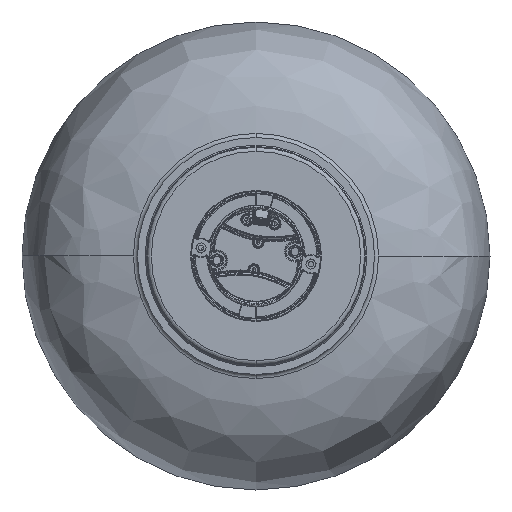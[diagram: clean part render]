
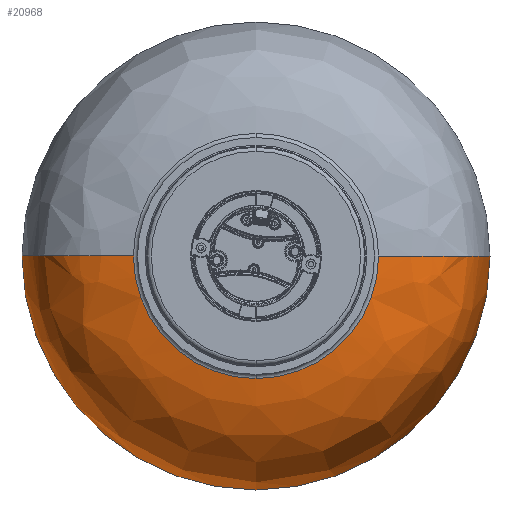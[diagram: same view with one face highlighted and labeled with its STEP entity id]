
A CAD part, front view. The second image highlights one B-rep face of the part: STEP entity #20968.
In plain terms, the highlighted free-form (B-spline) face has degree [3, 3] with [7, 4] control points.
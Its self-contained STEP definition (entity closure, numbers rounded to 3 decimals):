
#2613 = VERTEX_POINT ( 'NONE', #21516 ) ;
#4855 = CARTESIAN_POINT ( 'NONE',  ( -85.562, -213.029, 0. ) ) ;
#5210 = CARTESIAN_POINT ( 'NONE',  ( 152., -104.694, 0. ) ) ;
#5527 = CIRCLE ( 'NONE', #6768, 79.594 ) ;
#6339 = DIRECTION ( 'NONE',  ( 0., -1., 0. ) ) ;
#6768 = AXIS2_PLACEMENT_3D ( 'NONE', #34415, #57318, #17936 ) ;
#7639 = AXIS2_PLACEMENT_3D ( 'NONE', #57385, #6339, #12352 ) ;
#8888 = CARTESIAN_POINT ( 'NONE',  ( 79.594, -213.845, 0. ) ) ;
#9716 = CARTESIAN_POINT ( 'NONE',  ( 152.03, -116.775, -304.06 ) ) ;
#9989 = ORIENTED_EDGE ( 'NONE', *, *, #14375, .T. ) ;
#10096 = CARTESIAN_POINT ( 'NONE',  ( 85.562, -213.029, -171.125 ) ) ;
#10459 = CARTESIAN_POINT ( 'NONE',  ( -151.189, -155.552, 0. ) ) ;
#11209 = CARTESIAN_POINT ( 'NONE',  ( 151.189, -155.552, -302.379 ) ) ;
#12352 = DIRECTION ( 'NONE',  ( 0., 0., -1. ) ) ;
#13218 = CARTESIAN_POINT ( 'NONE',  ( -151.189, -155.552, 0. ) ) ;
#13387 = VERTEX_POINT ( 'NONE', #72590 ) ;
#14239 =( BOUNDED_SURFACE ( )  B_SPLINE_SURFACE ( 3, 3, ( 
 ( #16484, #21357, #56614, #16116 ),
 ( #4855, #22090, #10096, #43841 ),
 ( #21017, #50249, #73226, #32609 ),
 ( #61202, #73586, #44950, #44567 ),
 ( #10459, #68361, #11209, #38981 ),
 ( #21735, #55504, #9716, #49856 ),
 ( #67597, #61926, #33361, #5210 ) ),
 .UNSPECIFIED., .F., .F., .F. ) 
 B_SPLINE_SURFACE_WITH_KNOTS ( ( 4, 1, 1, 1, 4 ),
 ( 4, 4 ),
 ( 0.124, 0.177, 0.307, 0.407, 0.579 ),
 ( 0., 1. ),
 .UNSPECIFIED. ) 
 GEOMETRIC_REPRESENTATION_ITEM ( )  RATIONAL_B_SPLINE_SURFACE ( (
 ( 1., 0.333, 0.333, 1.),
 ( 1., 0.333, 0.333, 1.),
 ( 1., 0.333, 0.333, 1.),
 ( 1., 0.333, 0.333, 1.),
 ( 1., 0.333, 0.333, 1.),
 ( 1., 0.333, 0.333, 1.),
 ( 1., 0.333, 0.333, 1.) ) ) 
 REPRESENTATION_ITEM ( '' )  SURFACE ( )  );
#14375 = EDGE_CURVE ( 'NONE', #56492, #51142, #62820, .T. ) ;
#14890 = CARTESIAN_POINT ( 'NONE',  ( 135.411, -193.319, 0. ) ) ;
#16116 = CARTESIAN_POINT ( 'NONE',  ( 79.594, -213.845, 0. ) ) ;
#16484 = CARTESIAN_POINT ( 'NONE',  ( -79.594, -213.845, 0. ) ) ;
#17936 = DIRECTION ( 'NONE',  ( 0., 0., -1. ) ) ;
#20968 = ADVANCED_FACE ( 'NONE', ( #30795 ), #14239, .T. ) ;
#21017 = CARTESIAN_POINT ( 'NONE',  ( -106.744, -208.96, 0. ) ) ;
#21357 = CARTESIAN_POINT ( 'NONE',  ( -79.594, -213.845, -159.187 ) ) ;
#21516 = CARTESIAN_POINT ( 'NONE',  ( -79.594, -213.845, 0. ) ) ;
#21735 = CARTESIAN_POINT ( 'NONE',  ( -152.03, -116.775, 0. ) ) ;
#22090 = CARTESIAN_POINT ( 'NONE',  ( -85.562, -213.029, -171.125 ) ) ;
#24467 = CARTESIAN_POINT ( 'NONE',  ( -79.594, -213.845, 0. ) ) ;
#25218 = EDGE_CURVE ( 'NONE', #13387, #2613, #5527, .T. ) ;
#27175 = ORIENTED_EDGE ( 'NONE', *, *, #62263, .T. ) ;
#30795 = FACE_OUTER_BOUND ( 'NONE', #69858, .T. ) ;
#31413 = CARTESIAN_POINT ( 'NONE',  ( 106.744, -208.96, 0. ) ) ;
#32479 = B_SPLINE_CURVE_WITH_KNOTS ( 'NONE', 3,
 ( #8888, #53985, #31413, #14890, #70921, #59986, #37379 ),
 .UNSPECIFIED., .F., .F.,
 ( 4, 1, 1, 1, 4 ),
 ( 0.124, 0.177, 0.307, 0.407, 0.579 ),
 .UNSPECIFIED. ) ;
#32609 = CARTESIAN_POINT ( 'NONE',  ( 106.744, -208.96, 0. ) ) ;
#32724 = EDGE_CURVE ( 'NONE', #59236, #13387, #73664, .T. ) ;
#32861 = AXIS2_PLACEMENT_3D ( 'NONE', #57062, #58185, #51439 ) ;
#33361 = CARTESIAN_POINT ( 'NONE',  ( 152., -104.694, -304. ) ) ;
#34415 = CARTESIAN_POINT ( 'NONE',  ( 0., -213.845, 0. ) ) ;
#36876 = ORIENTED_EDGE ( 'NONE', *, *, #32724, .T. ) ;
#37379 = CARTESIAN_POINT ( 'NONE',  ( 152., -104.694, 0. ) ) ;
#38981 = CARTESIAN_POINT ( 'NONE',  ( 151.189, -155.552, 0. ) ) ;
#43841 = CARTESIAN_POINT ( 'NONE',  ( 85.562, -213.029, 0. ) ) ;
#43876 = CARTESIAN_POINT ( 'NONE',  ( -152., -104.694, 0. ) ) ;
#44567 = CARTESIAN_POINT ( 'NONE',  ( 135.411, -193.319, 0. ) ) ;
#44950 = CARTESIAN_POINT ( 'NONE',  ( 135.411, -193.319, -270.821 ) ) ;
#47327 = CARTESIAN_POINT ( 'NONE',  ( -85.562, -213.029, 0. ) ) ;
#49856 = CARTESIAN_POINT ( 'NONE',  ( 152.03, -116.775, 0. ) ) ;
#50180 = CARTESIAN_POINT ( 'NONE',  ( 79.594, -213.845, 0. ) ) ;
#50249 = CARTESIAN_POINT ( 'NONE',  ( -106.744, -208.96, -213.489 ) ) ;
#51142 = VERTEX_POINT ( 'NONE', #51152 ) ;
#51152 = CARTESIAN_POINT ( 'NONE',  ( 152., -104.694, 0. ) ) ;
#51439 = DIRECTION ( 'NONE',  ( 0., 0., -1. ) ) ;
#53985 = CARTESIAN_POINT ( 'NONE',  ( 85.562, -213.029, 0. ) ) ;
#54046 = EDGE_CURVE ( 'NONE', #59236, #51142, #32479, .T. ) ;
#54485 = CARTESIAN_POINT ( 'NONE',  ( -152.03, -116.775, 0. ) ) ;
#55504 = CARTESIAN_POINT ( 'NONE',  ( -152.03, -116.775, -304.06 ) ) ;
#56492 = VERTEX_POINT ( 'NONE', #71256 ) ;
#56614 = CARTESIAN_POINT ( 'NONE',  ( 79.594, -213.845, -159.187 ) ) ;
#57062 = CARTESIAN_POINT ( 'NONE',  ( 0., -213.845, 0. ) ) ;
#57318 = DIRECTION ( 'NONE',  ( 0., 1., 0. ) ) ;
#57385 = CARTESIAN_POINT ( 'NONE',  ( 0., -104.694, 0. ) ) ;
#58185 = DIRECTION ( 'NONE',  ( 0., 1., 0. ) ) ;
#59236 = VERTEX_POINT ( 'NONE', #50180 ) ;
#59986 = CARTESIAN_POINT ( 'NONE',  ( 152.03, -116.775, 0. ) ) ;
#61202 = CARTESIAN_POINT ( 'NONE',  ( -135.411, -193.319, 0. ) ) ;
#61926 = CARTESIAN_POINT ( 'NONE',  ( -152., -104.694, -304. ) ) ;
#62263 = EDGE_CURVE ( 'NONE', #2613, #56492, #71143, .T. ) ;
#62820 = CIRCLE ( 'NONE', #7639, 152. ) ;
#64686 = CARTESIAN_POINT ( 'NONE',  ( -135.411, -193.319, 0. ) ) ;
#66775 = ORIENTED_EDGE ( 'NONE', *, *, #25218, .T. ) ;
#67597 = CARTESIAN_POINT ( 'NONE',  ( -152., -104.694, 0. ) ) ;
#68361 = CARTESIAN_POINT ( 'NONE',  ( -151.189, -155.552, -302.379 ) ) ;
#69858 = EDGE_LOOP ( 'NONE', ( #66775, #27175, #9989, #72044, #36876 ) ) ;
#70346 = CARTESIAN_POINT ( 'NONE',  ( -106.744, -208.96, 0. ) ) ;
#70921 = CARTESIAN_POINT ( 'NONE',  ( 151.189, -155.552, 0. ) ) ;
#71143 = B_SPLINE_CURVE_WITH_KNOTS ( 'NONE', 3,
 ( #24467, #47327, #70346, #64686, #13218, #54485, #43876 ),
 .UNSPECIFIED., .F., .F.,
 ( 4, 1, 1, 1, 4 ),
 ( 0.124, 0.177, 0.307, 0.407, 0.579 ),
 .UNSPECIFIED. ) ;
#71256 = CARTESIAN_POINT ( 'NONE',  ( -152., -104.694, 0. ) ) ;
#72044 = ORIENTED_EDGE ( 'NONE', *, *, #54046, .F. ) ;
#72590 = CARTESIAN_POINT ( 'NONE',  ( 0., -213.845, -79.594 ) ) ;
#73226 = CARTESIAN_POINT ( 'NONE',  ( 106.744, -208.96, -213.489 ) ) ;
#73586 = CARTESIAN_POINT ( 'NONE',  ( -135.411, -193.319, -270.821 ) ) ;
#73664 = CIRCLE ( 'NONE', #32861, 79.594 ) ;
